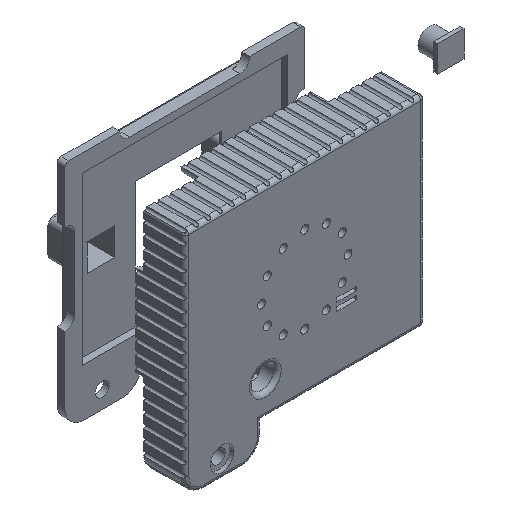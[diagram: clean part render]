
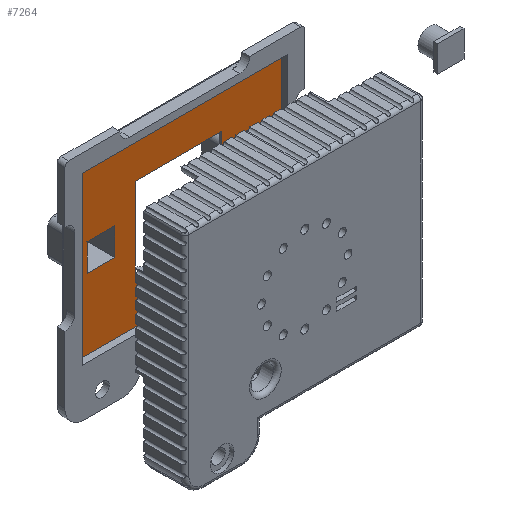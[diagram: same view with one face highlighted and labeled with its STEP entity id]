
A CAD part, isometric view. The second image highlights one B-rep face of the part: STEP entity #7264.
In plain terms, the highlighted planar face has unit normal (0, -1, 0).
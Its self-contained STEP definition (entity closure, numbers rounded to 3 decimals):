
#42=FACE_BOUND('',#1218,.T.);
#43=FACE_BOUND('',#1219,.T.);
#44=FACE_BOUND('',#1220,.T.);
#798=FACE_OUTER_BOUND('',#1217,.T.);
#1217=EDGE_LOOP('',(#5260,#5261,#5262,#5263));
#1218=EDGE_LOOP('',(#5264,#5265,#5266,#5267));
#1219=EDGE_LOOP('',(#5268,#5269,#5270,#5271));
#1220=EDGE_LOOP('',(#5272,#5273,#5274,#5275));
#1674=LINE('',#11698,#2358);
#1677=LINE('',#11703,#2361);
#1694=LINE('',#11755,#2378);
#1697=LINE('',#11760,#2381);
#1704=LINE('',#11778,#2388);
#1707=LINE('',#11783,#2391);
#1709=LINE('',#11788,#2393);
#1712=LINE('',#11793,#2396);
#1714=LINE('',#11797,#2398);
#1715=LINE('',#11799,#2399);
#1716=LINE('',#11802,#2400);
#1717=LINE('',#11803,#2401);
#1718=LINE('',#11805,#2402);
#1719=LINE('',#11806,#2403);
#1720=LINE('',#11808,#2404);
#1721=LINE('',#11809,#2405);
#2358=VECTOR('',#8545,10.);
#2361=VECTOR('',#8550,10.);
#2378=VECTOR('',#8607,10.);
#2381=VECTOR('',#8612,10.);
#2388=VECTOR('',#8627,10.);
#2391=VECTOR('',#8632,10.);
#2393=VECTOR('',#8636,10.);
#2396=VECTOR('',#8641,10.);
#2398=VECTOR('',#8645,10.);
#2399=VECTOR('',#8648,10.);
#2400=VECTOR('',#8651,10.);
#2401=VECTOR('',#8652,10.);
#2402=VECTOR('',#8653,10.);
#2403=VECTOR('',#8654,10.);
#2404=VECTOR('',#8655,10.);
#2405=VECTOR('',#8656,10.);
#3093=VERTEX_POINT('',#11695);
#3094=VERTEX_POINT('',#11697);
#3095=VERTEX_POINT('',#11701);
#3109=VERTEX_POINT('',#11752);
#3110=VERTEX_POINT('',#11754);
#3111=VERTEX_POINT('',#11758);
#3117=VERTEX_POINT('',#11775);
#3118=VERTEX_POINT('',#11777);
#3119=VERTEX_POINT('',#11781);
#3120=VERTEX_POINT('',#11785);
#3121=VERTEX_POINT('',#11787);
#3122=VERTEX_POINT('',#11791);
#3123=VERTEX_POINT('',#11795);
#3124=VERTEX_POINT('',#11801);
#3125=VERTEX_POINT('',#11804);
#3126=VERTEX_POINT('',#11807);
#3888=EDGE_CURVE('',#3093,#3094,#1674,.T.);
#3891=EDGE_CURVE('',#3095,#3093,#1677,.T.);
#3915=EDGE_CURVE('',#3109,#3110,#1694,.T.);
#3918=EDGE_CURVE('',#3111,#3109,#1697,.T.);
#3926=EDGE_CURVE('',#3117,#3118,#1704,.T.);
#3929=EDGE_CURVE('',#3119,#3117,#1707,.T.);
#3931=EDGE_CURVE('',#3120,#3121,#1709,.T.);
#3934=EDGE_CURVE('',#3122,#3120,#1712,.T.);
#3936=EDGE_CURVE('',#3123,#3122,#1714,.T.);
#3937=EDGE_CURVE('',#3121,#3123,#1715,.T.);
#3938=EDGE_CURVE('',#3124,#3095,#1716,.T.);
#3939=EDGE_CURVE('',#3094,#3124,#1717,.T.);
#3940=EDGE_CURVE('',#3125,#3111,#1718,.T.);
#3941=EDGE_CURVE('',#3110,#3125,#1719,.T.);
#3942=EDGE_CURVE('',#3126,#3119,#1720,.T.);
#3943=EDGE_CURVE('',#3118,#3126,#1721,.T.);
#5260=ORIENTED_EDGE('',*,*,#3937,.F.);
#5261=ORIENTED_EDGE('',*,*,#3931,.F.);
#5262=ORIENTED_EDGE('',*,*,#3934,.F.);
#5263=ORIENTED_EDGE('',*,*,#3936,.F.);
#5264=ORIENTED_EDGE('',*,*,#3938,.F.);
#5265=ORIENTED_EDGE('',*,*,#3939,.F.);
#5266=ORIENTED_EDGE('',*,*,#3888,.F.);
#5267=ORIENTED_EDGE('',*,*,#3891,.F.);
#5268=ORIENTED_EDGE('',*,*,#3940,.F.);
#5269=ORIENTED_EDGE('',*,*,#3941,.F.);
#5270=ORIENTED_EDGE('',*,*,#3915,.F.);
#5271=ORIENTED_EDGE('',*,*,#3918,.F.);
#5272=ORIENTED_EDGE('',*,*,#3942,.F.);
#5273=ORIENTED_EDGE('',*,*,#3943,.F.);
#5274=ORIENTED_EDGE('',*,*,#3926,.F.);
#5275=ORIENTED_EDGE('',*,*,#3929,.F.);
#7012=PLANE('',#7719);
#7264=ADVANCED_FACE('',(#798,#42,#43,#44),#7012,.F.);
#7719=AXIS2_PLACEMENT_3D('',#11800,#8649,#8650);
#8545=DIRECTION('',(-1.,0.,0.));
#8550=DIRECTION('',(0.,0.,1.));
#8607=DIRECTION('',(1.,0.,0.));
#8612=DIRECTION('',(0.,0.,-1.));
#8627=DIRECTION('',(1.,0.,0.));
#8632=DIRECTION('',(0.,0.,-1.));
#8636=DIRECTION('',(0.,0.,-1.));
#8641=DIRECTION('',(1.,0.,0.));
#8645=DIRECTION('',(0.,0.,1.));
#8648=DIRECTION('',(-1.,0.,0.));
#8649=DIRECTION('center_axis',(0.,1.,0.));
#8650=DIRECTION('ref_axis',(0.,0.,1.));
#8651=DIRECTION('',(1.,0.,0.));
#8652=DIRECTION('',(0.,0.,-1.));
#8653=DIRECTION('',(-1.,0.,0.));
#8654=DIRECTION('',(0.,0.,1.));
#8655=DIRECTION('',(-1.,0.,0.));
#8656=DIRECTION('',(0.,0.,1.));
#11695=CARTESIAN_POINT('',(11.,1.6,11.));
#11697=CARTESIAN_POINT('',(-11.,1.6,11.));
#11698=CARTESIAN_POINT('',(5.5,1.6,11.));
#11701=CARTESIAN_POINT('',(11.,1.6,-11.));
#11703=CARTESIAN_POINT('',(11.,1.6,-5.5));
#11752=CARTESIAN_POINT('',(-23.2,1.6,-3.2));
#11754=CARTESIAN_POINT('',(-16.2,1.6,-3.2));
#11755=CARTESIAN_POINT('',(-11.6,1.6,-3.2));
#11758=CARTESIAN_POINT('',(-23.2,1.6,3.8));
#11760=CARTESIAN_POINT('',(-23.2,1.6,1.9));
#11775=CARTESIAN_POINT('',(16.2,1.6,-3.2));
#11777=CARTESIAN_POINT('',(23.2,1.6,-3.2));
#11778=CARTESIAN_POINT('',(8.1,1.6,-3.2));
#11781=CARTESIAN_POINT('',(16.2,1.6,3.8));
#11783=CARTESIAN_POINT('',(16.2,1.6,1.9));
#11785=CARTESIAN_POINT('',(26.15,1.6,21.15));
#11787=CARTESIAN_POINT('',(26.15,1.6,-21.15));
#11788=CARTESIAN_POINT('',(26.15,1.6,21.15));
#11791=CARTESIAN_POINT('',(-26.15,1.6,21.15));
#11793=CARTESIAN_POINT('',(-26.15,1.6,21.15));
#11795=CARTESIAN_POINT('',(-26.15,1.6,-21.15));
#11797=CARTESIAN_POINT('',(-26.15,1.6,-21.15));
#11799=CARTESIAN_POINT('',(26.15,1.6,-21.15));
#11800=CARTESIAN_POINT('Origin',(0.,1.6,0.));
#11801=CARTESIAN_POINT('',(-11.,1.6,-11.));
#11802=CARTESIAN_POINT('',(-5.5,1.6,-11.));
#11803=CARTESIAN_POINT('',(-11.,1.6,5.5));
#11804=CARTESIAN_POINT('',(-16.2,1.6,3.8));
#11805=CARTESIAN_POINT('',(-8.1,1.6,3.8));
#11806=CARTESIAN_POINT('',(-16.2,1.6,-1.6));
#11807=CARTESIAN_POINT('',(23.2,1.6,3.8));
#11808=CARTESIAN_POINT('',(11.6,1.6,3.8));
#11809=CARTESIAN_POINT('',(23.2,1.6,-1.6));
